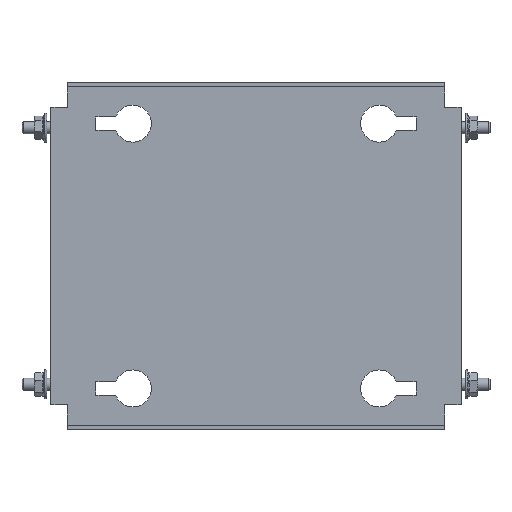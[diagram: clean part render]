
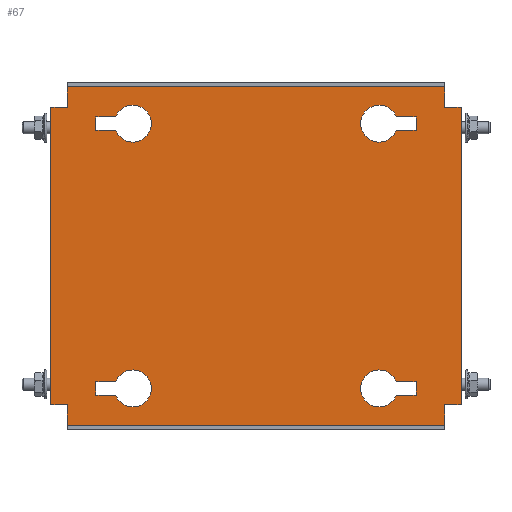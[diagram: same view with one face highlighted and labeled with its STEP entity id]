
A CAD part, top view. The second image highlights one B-rep face of the part: STEP entity #67.
In plain terms, the highlighted planar face has unit normal (0, 0, 1).
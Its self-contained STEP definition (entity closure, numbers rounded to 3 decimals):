
#67 = ADVANCED_FACE('',(#68,#103,#138,#300,#335),#370,.T.);
#68 = FACE_BOUND('',#69,.T.);
#69 = EDGE_LOOP('',(#70,#80,#88,#96));
#70 = ORIENTED_EDGE('',*,*,#71,.T.);
#71 = EDGE_CURVE('',#72,#74,#76,.T.);
#72 = VERTEX_POINT('',#73);
#73 = CARTESIAN_POINT('',(68.393,67.75,2.));
#74 = VERTEX_POINT('',#75);
#75 = CARTESIAN_POINT('',(78.,67.75,2.));
#76 = LINE('',#77,#78);
#77 = CARTESIAN_POINT('',(77.,67.75,2.));
#78 = VECTOR('',#79,1.);
#79 = DIRECTION('',(1.,0.,0.));
#80 = ORIENTED_EDGE('',*,*,#81,.T.);
#81 = EDGE_CURVE('',#74,#82,#84,.T.);
#82 = VERTEX_POINT('',#83);
#83 = CARTESIAN_POINT('',(78.,61.25,2.));
#84 = LINE('',#85,#86);
#85 = CARTESIAN_POINT('',(78.,67.75,2.));
#86 = VECTOR('',#87,1.);
#87 = DIRECTION('',(0.,-1.,0.));
#88 = ORIENTED_EDGE('',*,*,#89,.T.);
#89 = EDGE_CURVE('',#82,#90,#92,.T.);
#90 = VERTEX_POINT('',#91);
#91 = CARTESIAN_POINT('',(68.393,61.25,2.));
#92 = LINE('',#93,#94);
#93 = CARTESIAN_POINT('',(77.,61.25,2.));
#94 = VECTOR('',#95,1.);
#95 = DIRECTION('',(-1.,0.,0.));
#96 = ORIENTED_EDGE('',*,*,#97,.T.);
#97 = EDGE_CURVE('',#90,#72,#98,.T.);
#98 = CIRCLE('',#99,9.);
#99 = AXIS2_PLACEMENT_3D('',#100,#101,#102);
#100 = CARTESIAN_POINT('',(60.,64.5,2.));
#101 = DIRECTION('',(0.,0.,-1.));
#102 = DIRECTION('',(1.,0.,0.));
#103 = FACE_BOUND('',#104,.T.);
#104 = EDGE_LOOP('',(#105,#115,#123,#131));
#105 = ORIENTED_EDGE('',*,*,#106,.T.);
#106 = EDGE_CURVE('',#107,#109,#111,.T.);
#107 = VERTEX_POINT('',#108);
#108 = CARTESIAN_POINT('',(-68.393,-67.75,2.));
#109 = VERTEX_POINT('',#110);
#110 = CARTESIAN_POINT('',(-78.,-67.75,2.));
#111 = LINE('',#112,#113);
#112 = CARTESIAN_POINT('',(-77.,-67.75,2.));
#113 = VECTOR('',#114,1.);
#114 = DIRECTION('',(-1.,0.,0.));
#115 = ORIENTED_EDGE('',*,*,#116,.T.);
#116 = EDGE_CURVE('',#109,#117,#119,.T.);
#117 = VERTEX_POINT('',#118);
#118 = CARTESIAN_POINT('',(-78.,-61.25,2.));
#119 = LINE('',#120,#121);
#120 = CARTESIAN_POINT('',(-78.,-67.75,2.));
#121 = VECTOR('',#122,1.);
#122 = DIRECTION('',(0.,1.,0.));
#123 = ORIENTED_EDGE('',*,*,#124,.T.);
#124 = EDGE_CURVE('',#117,#125,#127,.T.);
#125 = VERTEX_POINT('',#126);
#126 = CARTESIAN_POINT('',(-68.393,-61.25,2.));
#127 = LINE('',#128,#129);
#128 = CARTESIAN_POINT('',(-77.,-61.25,2.));
#129 = VECTOR('',#130,1.);
#130 = DIRECTION('',(1.,0.,-0.));
#131 = ORIENTED_EDGE('',*,*,#132,.T.);
#132 = EDGE_CURVE('',#125,#107,#133,.T.);
#133 = CIRCLE('',#134,9.);
#134 = AXIS2_PLACEMENT_3D('',#135,#136,#137);
#135 = CARTESIAN_POINT('',(-60.,-64.5,2.));
#136 = DIRECTION('',(0.,0.,-1.));
#137 = DIRECTION('',(-1.,0.,0.));
#138 = FACE_BOUND('',#139,.T.);
#139 = EDGE_LOOP('',(#140,#150,#158,#166,#174,#182,#190,#198,#206,#214,
    #222,#230,#238,#246,#254,#262,#270,#278,#286,#294));
#140 = ORIENTED_EDGE('',*,*,#141,.F.);
#141 = EDGE_CURVE('',#142,#144,#146,.T.);
#142 = VERTEX_POINT('',#143);
#143 = CARTESIAN_POINT('',(-97.4,72.5,2.));
#144 = VERTEX_POINT('',#145);
#145 = CARTESIAN_POINT('',(-92.,72.5,2.));
#146 = LINE('',#147,#148);
#147 = CARTESIAN_POINT('',(-98.,72.5,2.));
#148 = VECTOR('',#149,1.);
#149 = DIRECTION('',(1.,0.,-0.));
#150 = ORIENTED_EDGE('',*,*,#151,.T.);
#151 = EDGE_CURVE('',#142,#152,#154,.T.);
#152 = VERTEX_POINT('',#153);
#153 = CARTESIAN_POINT('',(-100.,72.5,2.));
#154 = LINE('',#155,#156);
#155 = CARTESIAN_POINT('',(-97.4,72.5,2.));
#156 = VECTOR('',#157,1.);
#157 = DIRECTION('',(-1.,0.,0.));
#158 = ORIENTED_EDGE('',*,*,#159,.F.);
#159 = EDGE_CURVE('',#160,#152,#162,.T.);
#160 = VERTEX_POINT('',#161);
#161 = CARTESIAN_POINT('',(-100.,-72.5,2.));
#162 = LINE('',#163,#164);
#163 = CARTESIAN_POINT('',(-100.,-82.5,2.));
#164 = VECTOR('',#165,1.);
#165 = DIRECTION('',(0.,1.,-0.));
#166 = ORIENTED_EDGE('',*,*,#167,.F.);
#167 = EDGE_CURVE('',#168,#160,#170,.T.);
#168 = VERTEX_POINT('',#169);
#169 = CARTESIAN_POINT('',(-97.4,-72.5,2.));
#170 = LINE('',#171,#172);
#171 = CARTESIAN_POINT('',(-92.,-72.5,2.));
#172 = VECTOR('',#173,1.);
#173 = DIRECTION('',(-1.,-0.,-0.));
#174 = ORIENTED_EDGE('',*,*,#175,.T.);
#175 = EDGE_CURVE('',#168,#176,#178,.T.);
#176 = VERTEX_POINT('',#177);
#177 = CARTESIAN_POINT('',(-92.,-72.5,2.));
#178 = LINE('',#179,#180);
#179 = CARTESIAN_POINT('',(-98.,-72.5,2.));
#180 = VECTOR('',#181,1.);
#181 = DIRECTION('',(1.,0.,-0.));
#182 = ORIENTED_EDGE('',*,*,#183,.T.);
#183 = EDGE_CURVE('',#176,#184,#186,.T.);
#184 = VERTEX_POINT('',#185);
#185 = CARTESIAN_POINT('',(-92.,-81.9,2.));
#186 = LINE('',#187,#188);
#187 = CARTESIAN_POINT('',(-92.,82.5,2.));
#188 = VECTOR('',#189,1.);
#189 = DIRECTION('',(0.,-1.,0.));
#190 = ORIENTED_EDGE('',*,*,#191,.T.);
#191 = EDGE_CURVE('',#184,#192,#194,.T.);
#192 = VERTEX_POINT('',#193);
#193 = CARTESIAN_POINT('',(-92.,-82.5,2.));
#194 = LINE('',#195,#196);
#195 = CARTESIAN_POINT('',(-92.,-81.9,2.));
#196 = VECTOR('',#197,1.);
#197 = DIRECTION('',(-0.,-1.,-0.));
#198 = ORIENTED_EDGE('',*,*,#199,.T.);
#199 = EDGE_CURVE('',#192,#200,#202,.T.);
#200 = VERTEX_POINT('',#201);
#201 = CARTESIAN_POINT('',(92.,-82.5,2.));
#202 = LINE('',#203,#204);
#203 = CARTESIAN_POINT('',(92.,-82.5,2.));
#204 = VECTOR('',#205,1.);
#205 = DIRECTION('',(1.,0.,0.));
#206 = ORIENTED_EDGE('',*,*,#207,.F.);
#207 = EDGE_CURVE('',#208,#200,#210,.T.);
#208 = VERTEX_POINT('',#209);
#209 = CARTESIAN_POINT('',(92.,-81.9,2.));
#210 = LINE('',#211,#212);
#211 = CARTESIAN_POINT('',(92.,-82.5,2.));
#212 = VECTOR('',#213,1.);
#213 = DIRECTION('',(0.,-1.,0.));
#214 = ORIENTED_EDGE('',*,*,#215,.T.);
#215 = EDGE_CURVE('',#208,#216,#218,.T.);
#216 = VERTEX_POINT('',#217);
#217 = CARTESIAN_POINT('',(92.,-72.5,2.));
#218 = LINE('',#219,#220);
#219 = CARTESIAN_POINT('',(92.,82.5,2.));
#220 = VECTOR('',#221,1.);
#221 = DIRECTION('',(0.,1.,-0.));
#222 = ORIENTED_EDGE('',*,*,#223,.F.);
#223 = EDGE_CURVE('',#224,#216,#226,.T.);
#224 = VERTEX_POINT('',#225);
#225 = CARTESIAN_POINT('',(97.4,-72.5,2.));
#226 = LINE('',#227,#228);
#227 = CARTESIAN_POINT('',(98.,-72.5,2.));
#228 = VECTOR('',#229,1.);
#229 = DIRECTION('',(-1.,0.,-0.));
#230 = ORIENTED_EDGE('',*,*,#231,.T.);
#231 = EDGE_CURVE('',#224,#232,#234,.T.);
#232 = VERTEX_POINT('',#233);
#233 = CARTESIAN_POINT('',(100.,-72.5,2.));
#234 = LINE('',#235,#236);
#235 = CARTESIAN_POINT('',(97.4,-72.5,2.));
#236 = VECTOR('',#237,1.);
#237 = DIRECTION('',(1.,-0.,0.));
#238 = ORIENTED_EDGE('',*,*,#239,.F.);
#239 = EDGE_CURVE('',#240,#232,#242,.T.);
#240 = VERTEX_POINT('',#241);
#241 = CARTESIAN_POINT('',(100.,72.5,2.));
#242 = LINE('',#243,#244);
#243 = CARTESIAN_POINT('',(100.,-82.5,2.));
#244 = VECTOR('',#245,1.);
#245 = DIRECTION('',(0.,-1.,-0.));
#246 = ORIENTED_EDGE('',*,*,#247,.F.);
#247 = EDGE_CURVE('',#248,#240,#250,.T.);
#248 = VERTEX_POINT('',#249);
#249 = CARTESIAN_POINT('',(97.4,72.5,2.));
#250 = LINE('',#251,#252);
#251 = CARTESIAN_POINT('',(-92.,72.5,2.));
#252 = VECTOR('',#253,1.);
#253 = DIRECTION('',(1.,-0.,0.));
#254 = ORIENTED_EDGE('',*,*,#255,.T.);
#255 = EDGE_CURVE('',#248,#256,#258,.T.);
#256 = VERTEX_POINT('',#257);
#257 = CARTESIAN_POINT('',(92.,72.5,2.));
#258 = LINE('',#259,#260);
#259 = CARTESIAN_POINT('',(98.,72.5,2.));
#260 = VECTOR('',#261,1.);
#261 = DIRECTION('',(-1.,0.,-0.));
#262 = ORIENTED_EDGE('',*,*,#263,.T.);
#263 = EDGE_CURVE('',#256,#264,#266,.T.);
#264 = VERTEX_POINT('',#265);
#265 = CARTESIAN_POINT('',(92.,81.9,2.));
#266 = LINE('',#267,#268);
#267 = CARTESIAN_POINT('',(92.,82.5,2.));
#268 = VECTOR('',#269,1.);
#269 = DIRECTION('',(0.,1.,-0.));
#270 = ORIENTED_EDGE('',*,*,#271,.T.);
#271 = EDGE_CURVE('',#264,#272,#274,.T.);
#272 = VERTEX_POINT('',#273);
#273 = CARTESIAN_POINT('',(92.,82.5,2.));
#274 = LINE('',#275,#276);
#275 = CARTESIAN_POINT('',(92.,81.9,2.));
#276 = VECTOR('',#277,1.);
#277 = DIRECTION('',(-0.,1.,-0.));
#278 = ORIENTED_EDGE('',*,*,#279,.T.);
#279 = EDGE_CURVE('',#272,#280,#282,.T.);
#280 = VERTEX_POINT('',#281);
#281 = CARTESIAN_POINT('',(-92.,82.5,2.));
#282 = LINE('',#283,#284);
#283 = CARTESIAN_POINT('',(-92.,82.5,2.));
#284 = VECTOR('',#285,1.);
#285 = DIRECTION('',(-1.,0.,0.));
#286 = ORIENTED_EDGE('',*,*,#287,.F.);
#287 = EDGE_CURVE('',#288,#280,#290,.T.);
#288 = VERTEX_POINT('',#289);
#289 = CARTESIAN_POINT('',(-92.,81.9,2.));
#290 = LINE('',#291,#292);
#291 = CARTESIAN_POINT('',(-92.,-82.5,2.));
#292 = VECTOR('',#293,1.);
#293 = DIRECTION('',(0.,1.,-0.));
#294 = ORIENTED_EDGE('',*,*,#295,.T.);
#295 = EDGE_CURVE('',#288,#144,#296,.T.);
#296 = LINE('',#297,#298);
#297 = CARTESIAN_POINT('',(-92.,82.5,2.));
#298 = VECTOR('',#299,1.);
#299 = DIRECTION('',(0.,-1.,0.));
#300 = FACE_BOUND('',#301,.T.);
#301 = EDGE_LOOP('',(#302,#312,#320,#328));
#302 = ORIENTED_EDGE('',*,*,#303,.F.);
#303 = EDGE_CURVE('',#304,#306,#308,.T.);
#304 = VERTEX_POINT('',#305);
#305 = CARTESIAN_POINT('',(78.,-61.25,2.));
#306 = VERTEX_POINT('',#307);
#307 = CARTESIAN_POINT('',(68.393,-61.25,2.));
#308 = LINE('',#309,#310);
#309 = CARTESIAN_POINT('',(68.393,-61.25,2.));
#310 = VECTOR('',#311,1.);
#311 = DIRECTION('',(-1.,0.,0.));
#312 = ORIENTED_EDGE('',*,*,#313,.F.);
#313 = EDGE_CURVE('',#314,#304,#316,.T.);
#314 = VERTEX_POINT('',#315);
#315 = CARTESIAN_POINT('',(78.,-67.75,2.));
#316 = LINE('',#317,#318);
#317 = CARTESIAN_POINT('',(78.,-61.25,2.));
#318 = VECTOR('',#319,1.);
#319 = DIRECTION('',(0.,1.,0.));
#320 = ORIENTED_EDGE('',*,*,#321,.F.);
#321 = EDGE_CURVE('',#322,#314,#324,.T.);
#322 = VERTEX_POINT('',#323);
#323 = CARTESIAN_POINT('',(68.393,-67.75,2.));
#324 = LINE('',#325,#326);
#325 = CARTESIAN_POINT('',(77.,-67.75,2.));
#326 = VECTOR('',#327,1.);
#327 = DIRECTION('',(1.,0.,0.));
#328 = ORIENTED_EDGE('',*,*,#329,.F.);
#329 = EDGE_CURVE('',#306,#322,#330,.T.);
#330 = CIRCLE('',#331,9.);
#331 = AXIS2_PLACEMENT_3D('',#332,#333,#334);
#332 = CARTESIAN_POINT('',(60.,-64.5,2.));
#333 = DIRECTION('',(0.,-0.,1.));
#334 = DIRECTION('',(1.,0.,0.));
#335 = FACE_BOUND('',#336,.T.);
#336 = EDGE_LOOP('',(#337,#347,#355,#363));
#337 = ORIENTED_EDGE('',*,*,#338,.F.);
#338 = EDGE_CURVE('',#339,#341,#343,.T.);
#339 = VERTEX_POINT('',#340);
#340 = CARTESIAN_POINT('',(-78.,61.25,2.));
#341 = VERTEX_POINT('',#342);
#342 = CARTESIAN_POINT('',(-68.393,61.25,2.));
#343 = LINE('',#344,#345);
#344 = CARTESIAN_POINT('',(-68.393,61.25,2.));
#345 = VECTOR('',#346,1.);
#346 = DIRECTION('',(1.,0.,0.));
#347 = ORIENTED_EDGE('',*,*,#348,.F.);
#348 = EDGE_CURVE('',#349,#339,#351,.T.);
#349 = VERTEX_POINT('',#350);
#350 = CARTESIAN_POINT('',(-78.,67.75,2.));
#351 = LINE('',#352,#353);
#352 = CARTESIAN_POINT('',(-78.,61.25,2.));
#353 = VECTOR('',#354,1.);
#354 = DIRECTION('',(0.,-1.,0.));
#355 = ORIENTED_EDGE('',*,*,#356,.F.);
#356 = EDGE_CURVE('',#357,#349,#359,.T.);
#357 = VERTEX_POINT('',#358);
#358 = CARTESIAN_POINT('',(-68.393,67.75,2.));
#359 = LINE('',#360,#361);
#360 = CARTESIAN_POINT('',(-77.,67.75,2.));
#361 = VECTOR('',#362,1.);
#362 = DIRECTION('',(-1.,0.,0.));
#363 = ORIENTED_EDGE('',*,*,#364,.F.);
#364 = EDGE_CURVE('',#341,#357,#365,.T.);
#365 = CIRCLE('',#366,9.);
#366 = AXIS2_PLACEMENT_3D('',#367,#368,#369);
#367 = CARTESIAN_POINT('',(-60.,64.5,2.));
#368 = DIRECTION('',(0.,-0.,1.));
#369 = DIRECTION('',(-1.,0.,0.));
#370 = PLANE('',#371);
#371 = AXIS2_PLACEMENT_3D('',#372,#373,#374);
#372 = CARTESIAN_POINT('',(-92.,-82.5,2.));
#373 = DIRECTION('',(-0.,0.,1.));
#374 = DIRECTION('',(1.,0.,0.));
